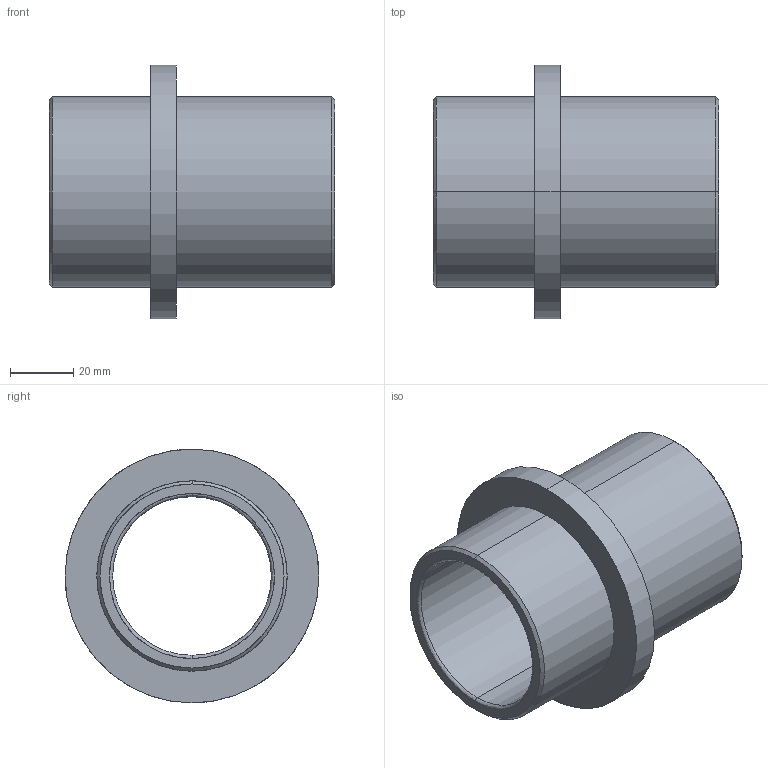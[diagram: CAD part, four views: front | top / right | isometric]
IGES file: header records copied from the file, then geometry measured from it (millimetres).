
Start section: START RECORD GO HERE.
Global section: file name: 355-50X90.igs; native system: DASSAULT SYSTEMES CATIA V5 R20 - www.3ds.com; preprocessor: CATIA Version 5 Release 20 ; author: Utente; organization: NB04-ASUS; date: 20210421.105222; units: millimetre
Bounding box: 90 x 80 x 80 mm (x, y, z)
Surface area: 37373.1 mm2 (no closed solid volume)
Topology: 0 solids, 0 shells, 20 faces, 128 edges, 128 vertices
Faces by surface type: revolution 16, plane 4
